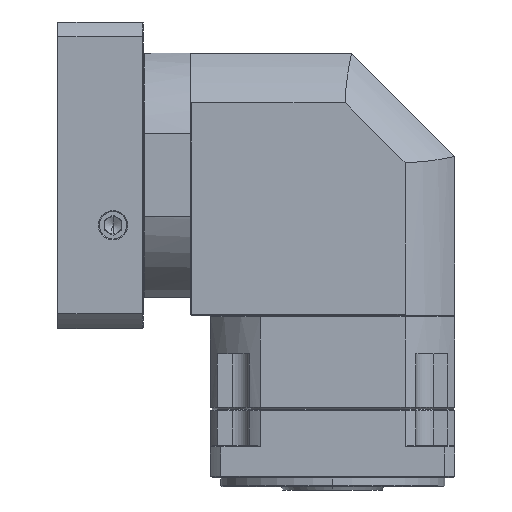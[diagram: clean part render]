
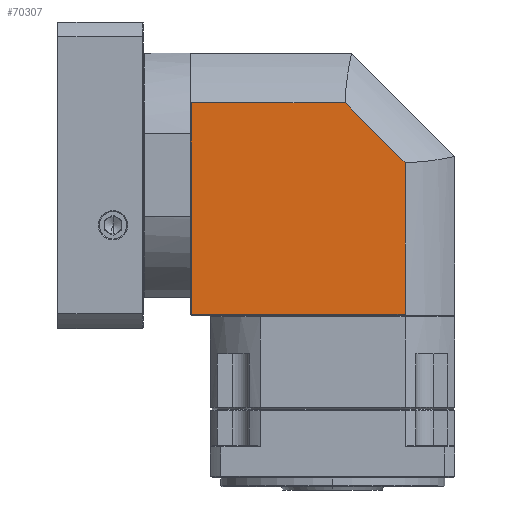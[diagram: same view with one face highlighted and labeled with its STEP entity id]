
A CAD part, left-side view. The second image highlights one B-rep face of the part: STEP entity #70307.
In plain terms, the highlighted planar face has unit normal (-1, 0, 0).
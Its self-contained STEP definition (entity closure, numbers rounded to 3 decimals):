
#4235 = DIRECTION ( 'NONE',  ( 0., 1., 0. ) ) ;
#9003 = CARTESIAN_POINT ( 'NONE',  ( -187.837, 12.009, -58.086 ) ) ;
#9034 = CARTESIAN_POINT ( 'NONE',  ( -187.837, 136.024, -58.086 ) ) ;
#15255 = LINE ( 'NONE', #64416, #67351 ) ;
#16584 = ORIENTED_EDGE ( 'NONE', *, *, #99172, .F. ) ;
#16588 = LINE ( 'NONE', #127730, #89383 ) ;
#19477 = VERTEX_POINT ( 'NONE', #9034 ) ;
#29696 = CARTESIAN_POINT ( 'NONE',  ( -187.837, 46.682, 64.629 ) ) ;
#39321 = DIRECTION ( 'NONE',  ( 0., -0.707, -0.707 ) ) ;
#47273 = EDGE_CURVE ( 'NONE', #125477, #78725, #50725, .T. ) ;
#49122 = VERTEX_POINT ( 'NONE', #79966 ) ;
#50725 = LINE ( 'NONE', #117144, #74368 ) ;
#52225 = DIRECTION ( 'NONE',  ( -1., 0., 0. ) ) ;
#54450 = VERTEX_POINT ( 'NONE', #9003 ) ;
#55657 = DIRECTION ( 'NONE',  ( 0., 0., -1. ) ) ;
#58661 = DIRECTION ( 'NONE',  ( 0., 0., 1. ) ) ;
#62378 = CARTESIAN_POINT ( 'NONE',  ( -187.837, 59.774, 17.514 ) ) ;
#63115 = EDGE_LOOP ( 'NONE', ( #78063, #79772, #92690, #16584, #70415 ) ) ;
#64416 = CARTESIAN_POINT ( 'NONE',  ( -187.837, 59.774, -58.086 ) ) ;
#67351 = VECTOR ( 'NONE', #4235, 1000. ) ;
#70307 = ADVANCED_FACE ( 'NONE', ( #118787 ), #130153, .T. ) ;
#70415 = ORIENTED_EDGE ( 'NONE', *, *, #95292, .F. ) ;
#74368 = VECTOR ( 'NONE', #127819, 1000. ) ;
#78063 = ORIENTED_EDGE ( 'NONE', *, *, #47273, .F. ) ;
#78667 = CARTESIAN_POINT ( 'NONE',  ( -187.837, -71.365, -53.418 ) ) ;
#78725 = VERTEX_POINT ( 'NONE', #29696 ) ;
#79507 = VECTOR ( 'NONE', #55657, 1000. ) ;
#79772 = ORIENTED_EDGE ( 'NONE', *, *, #105491, .F. ) ;
#79966 = CARTESIAN_POINT ( 'NONE',  ( -187.837, 12.009, 29.956 ) ) ;
#89383 = VECTOR ( 'NONE', #58661, 1000. ) ;
#92690 = ORIENTED_EDGE ( 'NONE', *, *, #92844, .F. ) ;
#92844 = EDGE_CURVE ( 'NONE', #54450, #19477, #15255, .T. ) ;
#95292 = EDGE_CURVE ( 'NONE', #78725, #49122, #96443, .T. ) ;
#96443 = LINE ( 'NONE', #78667, #117012 ) ;
#99172 = EDGE_CURVE ( 'NONE', #49122, #54450, #112749, .T. ) ;
#105491 = EDGE_CURVE ( 'NONE', #19477, #125477, #16588, .T. ) ;
#106599 = CARTESIAN_POINT ( 'NONE',  ( -187.837, 136.024, 64.629 ) ) ;
#111887 = DIRECTION ( 'NONE',  ( 0., 0., -1. ) ) ;
#111897 = AXIS2_PLACEMENT_3D ( 'NONE', #62378, #52225, #111887 ) ;
#112749 = LINE ( 'NONE', #117173, #79507 ) ;
#117012 = VECTOR ( 'NONE', #39321, 1000. ) ;
#117144 = CARTESIAN_POINT ( 'NONE',  ( -187.837, -220.517, 64.629 ) ) ;
#117173 = CARTESIAN_POINT ( 'NONE',  ( -187.837, 12.009, 295.265 ) ) ;
#118787 = FACE_OUTER_BOUND ( 'NONE', #63115, .T. ) ;
#125477 = VERTEX_POINT ( 'NONE', #106599 ) ;
#127730 = CARTESIAN_POINT ( 'NONE',  ( -187.837, 136.024, 17.514 ) ) ;
#127819 = DIRECTION ( 'NONE',  ( 0., -1., 0. ) ) ;
#130153 = PLANE ( 'NONE',  #111897 ) ;
